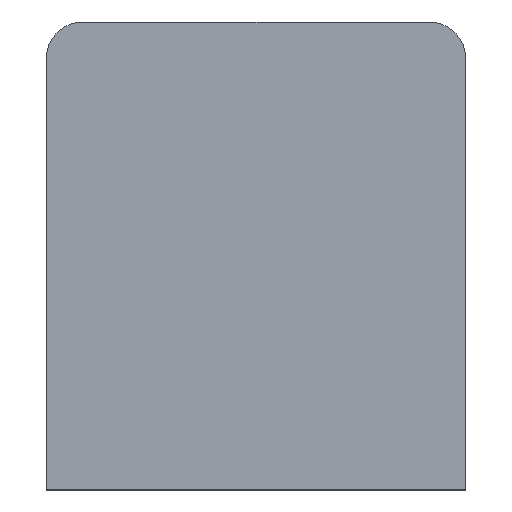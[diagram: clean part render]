
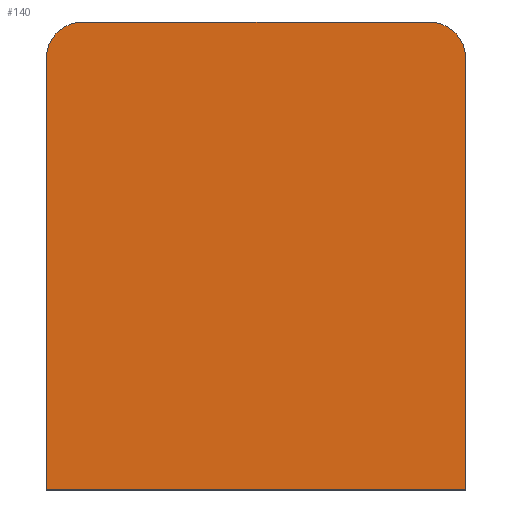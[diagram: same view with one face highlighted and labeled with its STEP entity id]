
A CAD part, top view. The second image highlights one B-rep face of the part: STEP entity #140.
In plain terms, the highlighted planar face has unit normal (0, 0, 1).
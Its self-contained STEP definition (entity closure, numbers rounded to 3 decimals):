
#19=CIRCLE('',#164,0.7);
#20=CIRCLE('',#166,0.7);
#24=FACE_OUTER_BOUND('',#32,.T.);
#32=EDGE_LOOP('',(#109,#110,#111,#112,#113,#114));
#39=LINE('',#219,#53);
#45=LINE('',#237,#59);
#46=LINE('',#239,#60);
#47=LINE('',#242,#61);
#53=VECTOR('',#177,1.);
#59=VECTOR('',#195,1.);
#60=VECTOR('',#196,1.);
#61=VECTOR('',#199,1.);
#67=VERTEX_POINT('',#216);
#68=VERTEX_POINT('',#218);
#73=VERTEX_POINT('',#232);
#74=VERTEX_POINT('',#236);
#75=VERTEX_POINT('',#238);
#76=VERTEX_POINT('',#240);
#79=EDGE_CURVE('',#67,#68,#39,.T.);
#87=EDGE_CURVE('',#73,#68,#19,.T.);
#88=EDGE_CURVE('',#74,#67,#45,.T.);
#89=EDGE_CURVE('',#74,#75,#46,.T.);
#90=EDGE_CURVE('',#75,#76,#20,.T.);
#91=EDGE_CURVE('',#73,#76,#47,.T.);
#109=ORIENTED_EDGE('',*,*,#79,.F.);
#110=ORIENTED_EDGE('',*,*,#88,.F.);
#111=ORIENTED_EDGE('',*,*,#89,.T.);
#112=ORIENTED_EDGE('',*,*,#90,.T.);
#113=ORIENTED_EDGE('',*,*,#91,.F.);
#114=ORIENTED_EDGE('',*,*,#87,.T.);
#133=PLANE('',#165);
#140=ADVANCED_FACE('',(#24),#133,.T.);
#164=AXIS2_PLACEMENT_3D('',#234,#191,#192);
#165=AXIS2_PLACEMENT_3D('',#235,#193,#194);
#166=AXIS2_PLACEMENT_3D('',#241,#197,#198);
#177=DIRECTION('',(0.,1.,0.));
#191=DIRECTION('center_axis',(0.,0.,1.));
#192=DIRECTION('ref_axis',(1.,0.,0.));
#193=DIRECTION('center_axis',(0.,0.,1.));
#194=DIRECTION('ref_axis',(1.,0.,0.));
#195=DIRECTION('',(-1.,0.,0.));
#196=DIRECTION('',(0.,1.,0.));
#197=DIRECTION('center_axis',(0.,0.,1.));
#198=DIRECTION('ref_axis',(1.,0.,0.));
#199=DIRECTION('',(1.,0.,0.));
#216=CARTESIAN_POINT('',(-28.75,49.08,-7.9));
#218=CARTESIAN_POINT('',(-28.75,57.3,-7.9));
#219=CARTESIAN_POINT('',(-28.75,45.,-7.9));
#232=CARTESIAN_POINT('',(-28.05,58.,-7.9));
#234=CARTESIAN_POINT('Origin',(-28.05,57.3,-7.9));
#235=CARTESIAN_POINT('Origin',(-24.75,45.,-7.9));
#236=CARTESIAN_POINT('',(-20.75,49.08,-7.9));
#237=CARTESIAN_POINT('',(-26.875,49.08,-7.9));
#238=CARTESIAN_POINT('',(-20.75,57.3,-7.9));
#239=CARTESIAN_POINT('',(-20.75,45.,-7.9));
#240=CARTESIAN_POINT('',(-21.45,58.,-7.9));
#241=CARTESIAN_POINT('Origin',(-21.45,57.3,-7.9));
#242=CARTESIAN_POINT('',(-24.75,58.,-7.9));
